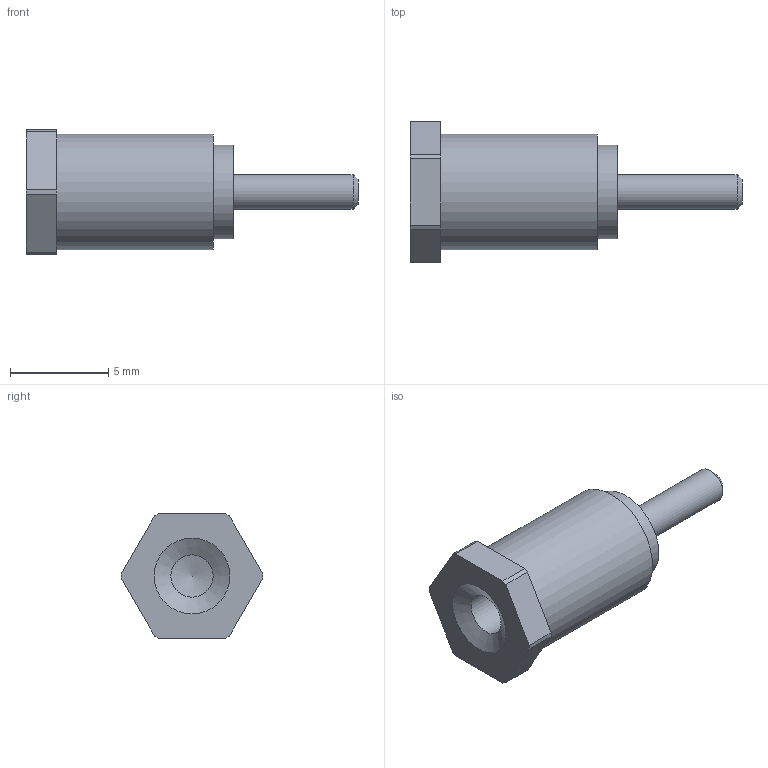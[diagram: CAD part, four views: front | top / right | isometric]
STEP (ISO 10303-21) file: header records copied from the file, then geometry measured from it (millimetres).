
FILE_DESCRIPTION(/* description */ (''),/* implementation_level */ '2;1');
FILE_NAME(/* name */ '\\Snap1\dwgs\Customer 3D Models\572\572-4850-01 Customer model.stp',/* time_stamp */ '2017-01-11T13:07:00+00:00',/* author */ ('paulk'),/* organization */ (''),/* preprocessor_version */ 'ST-DEVELOPER v15.2',/* originating_system */ 'Autodesk Inventor 2014',/* authorisation */ '');
FILE_SCHEMA (('CONFIG_CONTROL_DESIGN'));
Length unit declared in the file: millimetre
Products named in the file (1): 572-4850-01 Customer model
Bounding box: 16.89 x 7.2 x 6.35 mm (x, y, z)
Volume: 283.2 mm3; surface area: 336.4 mm2
Topology: 1 solids, 1 shells, 24 faces, 54 edges, 35 vertices
Faces by surface type: plane 11, cylinder 10, cone 3
Full cylindrical faces by diameter (mm): 1.778 x1, 2.156 x1, 4.775 x1, 5.893 x1
Entity records: 705 total; most frequent: DIRECTION 118, CARTESIAN_POINT 105, ORIENTED_EDGE 92, AXIS2_PLACEMENT_3D 47, EDGE_CURVE 46, EDGE_LOOP 34, VERTEX_POINT 34, STYLED_ITEM 25
